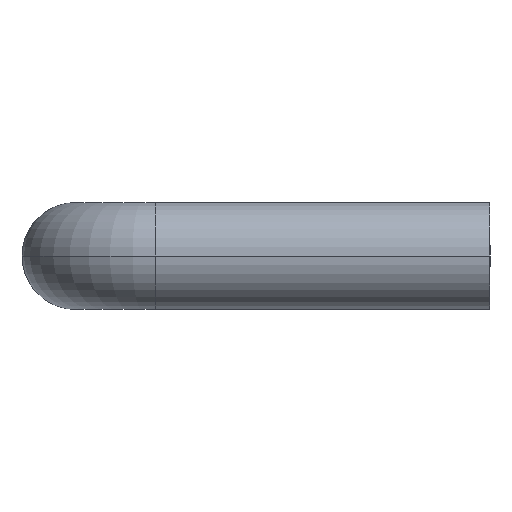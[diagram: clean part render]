
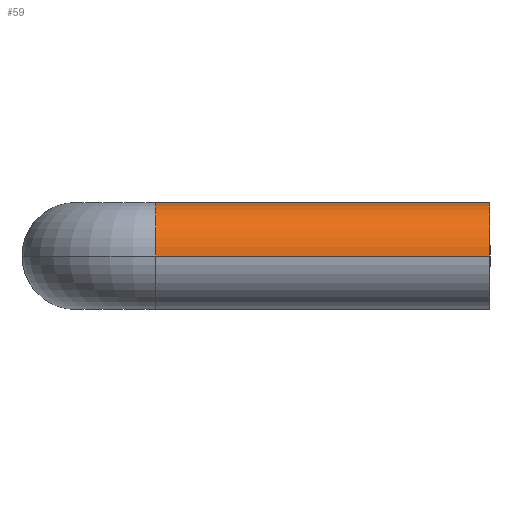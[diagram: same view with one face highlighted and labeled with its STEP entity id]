
A CAD part, left-side view. The second image highlights one B-rep face of the part: STEP entity #59.
In plain terms, the highlighted cylindrical face has radius 4 mm (diameter 8 mm), a partial arc.
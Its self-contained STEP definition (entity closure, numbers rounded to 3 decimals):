
#5 = CARTESIAN_POINT ( 'NONE',  ( -46., -6., 0. ) ) ;
#23 = CARTESIAN_POINT ( 'NONE',  ( -54., -6., 0. ) ) ;
#25 = AXIS2_PLACEMENT_3D ( 'NONE', #84, #49, #106 ) ;
#32 = VERTEX_POINT ( 'NONE', #5 ) ;
#33 = AXIS2_PLACEMENT_3D ( 'NONE', #115, #132, #102 ) ;
#49 = DIRECTION ( 'NONE',  ( 0., -1., 0. ) ) ;
#55 = CARTESIAN_POINT ( 'NONE',  ( -46., -6., 0. ) ) ;
#59 = ADVANCED_FACE ( 'NONE', ( #334 ), #433, .T. ) ;
#74 = VERTEX_POINT ( 'NONE', #140 ) ;
#76 = ORIENTED_EDGE ( 'NONE', *, *, #461, .F. ) ;
#82 = ORIENTED_EDGE ( 'NONE', *, *, #319, .T. ) ;
#84 = CARTESIAN_POINT ( 'NONE',  ( -50., -31., 0. ) ) ;
#97 = LINE ( 'NONE', #23, #153 ) ;
#102 = DIRECTION ( 'NONE',  ( 1., 0., 0. ) ) ;
#106 = DIRECTION ( 'NONE',  ( 1., 0., 0. ) ) ;
#115 = CARTESIAN_POINT ( 'NONE',  ( -50., -6., 0. ) ) ;
#132 = DIRECTION ( 'NONE',  ( 0., -1., 0. ) ) ;
#140 = CARTESIAN_POINT ( 'NONE',  ( -54., -31., 0. ) ) ;
#144 = LINE ( 'NONE', #55, #370 ) ;
#153 = VECTOR ( 'NONE', #583, 1000. ) ;
#285 = VERTEX_POINT ( 'NONE', #381 ) ;
#307 = VERTEX_POINT ( 'NONE', #510 ) ;
#316 = AXIS2_PLACEMENT_3D ( 'NONE', #317, #346, #355 ) ;
#317 = CARTESIAN_POINT ( 'NONE',  ( -50., -6., 0. ) ) ;
#319 = EDGE_CURVE ( 'NONE', #307, #74, #97, .T. ) ;
#334 = FACE_OUTER_BOUND ( 'NONE', #342, .T. ) ;
#342 = EDGE_LOOP ( 'NONE', ( #426, #82, #76, #405 ) ) ;
#346 = DIRECTION ( 'NONE',  ( 0., -1., 0. ) ) ;
#355 = DIRECTION ( 'NONE',  ( 1., 0., 0. ) ) ;
#370 = VECTOR ( 'NONE', #487, 1000. ) ;
#381 = CARTESIAN_POINT ( 'NONE',  ( -46., -31., 0. ) ) ;
#405 = ORIENTED_EDGE ( 'NONE', *, *, #551, .F. ) ;
#426 = ORIENTED_EDGE ( 'NONE', *, *, #578, .T. ) ;
#430 = CIRCLE ( 'NONE', #25, 4. ) ;
#433 = CYLINDRICAL_SURFACE ( 'NONE', #33, 4. ) ;
#437 = CIRCLE ( 'NONE', #316, 4. ) ;
#461 = EDGE_CURVE ( 'NONE', #285, #74, #430, .T. ) ;
#487 = DIRECTION ( 'NONE',  ( 0., -1., 0. ) ) ;
#510 = CARTESIAN_POINT ( 'NONE',  ( -54., -6., 0. ) ) ;
#551 = EDGE_CURVE ( 'NONE', #32, #285, #144, .T. ) ;
#578 = EDGE_CURVE ( 'NONE', #32, #307, #437, .T. ) ;
#583 = DIRECTION ( 'NONE',  ( 0., -1., 0. ) ) ;
